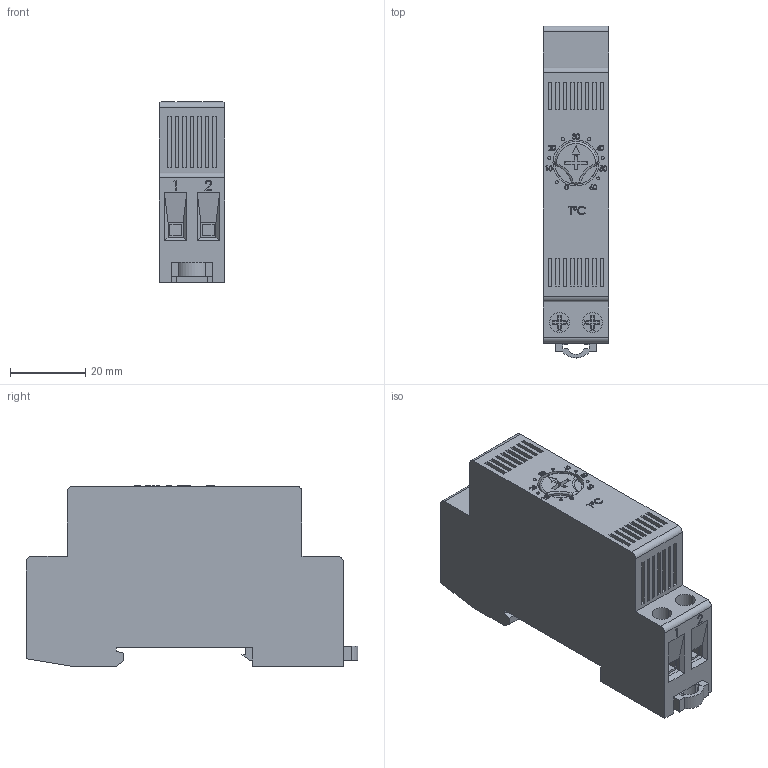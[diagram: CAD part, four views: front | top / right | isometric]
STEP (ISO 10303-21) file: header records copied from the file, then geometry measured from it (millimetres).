
FILE_DESCRIPTION (( 'STEP AP203' ), '1' );
FILE_NAME ('TRS-A.STEP', '2018-08-29T15:46:35', ( '' ), ( '' ), 'SwSTEP 2.0', 'SolidWorks 2012', '' );
FILE_SCHEMA (( 'CONFIG_CONTROL_DESIGN' ));
Length unit declared in the file: millimetre
Products named in the file (1): TRS-A
Bounding box: 17.5 x 88.4 x 48.1 mm (x, y, z)
Volume: 59175.5 mm3; surface area: 13315.9 mm2
Topology: 1 solids, 1 shells, 542 faces, 1364 edges, 902 vertices
Faces by surface type: plane 384, bspline 123, cylinder 29, torus 6
Entity records: 24519 total; most frequent: CARTESIAN_POINT 12192, ORIENTED_EDGE 2728, DIRECTION 2026, EDGE_CURVE 1364, LINE 1042, VECTOR 1042, VERTEX_POINT 902, EDGE_LOOP 622
